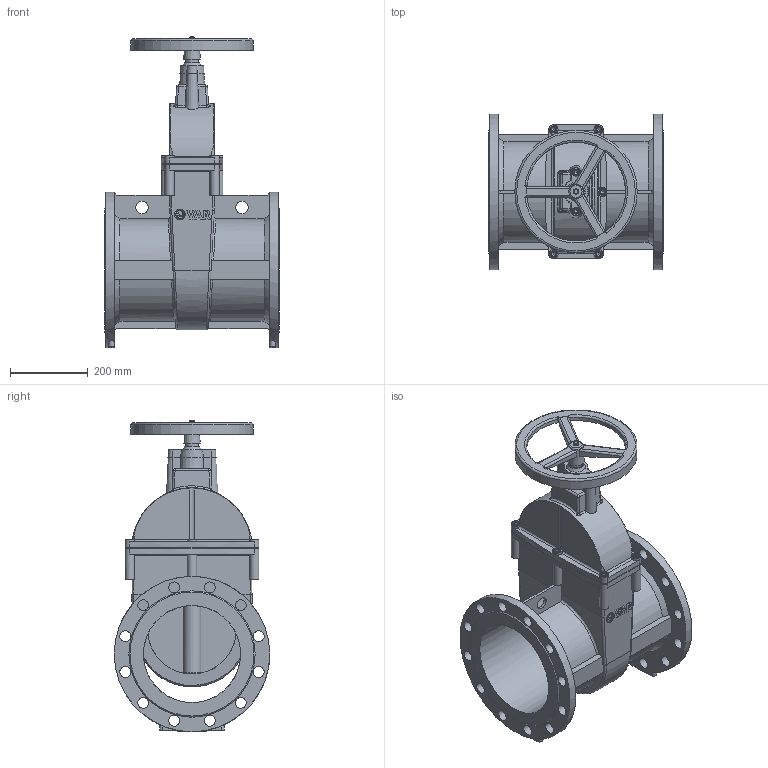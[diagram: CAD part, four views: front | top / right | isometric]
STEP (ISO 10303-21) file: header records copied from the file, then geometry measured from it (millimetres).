
FILE_DESCRIPTION(('STEP AP242'), '1');
FILE_NAME('青溻桄赅', '', ('UNSPECIFIED'), ('UNSPECIFIED'), 'C3D Converter', 'C3D Toolkit', '');
FILE_SCHEMA(('AP242_MANAGED_MODEL_BASED_3D_ENGINEERING_MIM_LF { 1 0 10303 442 1 1 4 }'));
Length unit declared in the file: millimetre
Assembly tree (17 placements, depth 2):
  (unnamed)
    (unnamed)
    (unnamed)
    (unnamed)
    (unnamed)
    (unnamed)  x2
    (unnamed)
    (unnamed)
    (unnamed)  x6
    (unnamed)  x2
    (unnamed)
Bounding box: 450 x 400 x 801.6 mm (x, y, z)
Volume: 13418999.1 mm3; surface area: 2548835 mm2
Topology: 20 solids, 20 shells, 978 faces, 2453 edges, 1568 vertices
Faces by surface type: plane 467, cylinder 201, extrusion 151, bspline 69, cone 69, torus 21
Full cylindrical faces by diameter (mm): 6 x3, 10 x8, 12 x30, 18 x16, 27.54 x1, 28 x24, 32 x2, 33 x7, 47.667 x4, 228 x2, 250 x4, 255 x1, 265 x1, 285.2 x4, 294 x1, 305 x1, 315 x1, 400 x2
Entity records: 44428 total; most frequent: CARTESIAN_POINT 22504, ORIENTED_EDGE 4006, DIRECTION 3160, EDGE_CURVE 2003, VERTEX_POINT 1374, EDGE_LOOP 1121, VECTOR 1088, AXIS2_PLACEMENT_3D 1036
